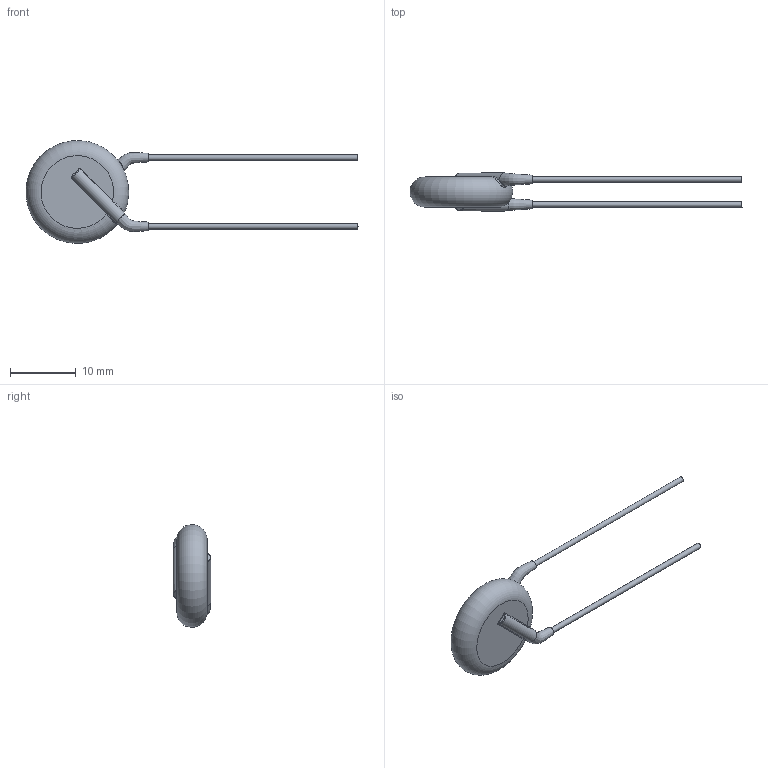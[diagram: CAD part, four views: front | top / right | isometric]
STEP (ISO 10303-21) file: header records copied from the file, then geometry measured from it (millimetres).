
FILE_DESCRIPTION(/* description */ (''),/* implementation_level */ '2;1');
FILE_NAME(/* name */ 'I:\Marketing\M6t1\3D-Models\Zchng-Werk-3\Upload for homepage\Ceramite\Y5U\440LD47-R\440LD47-R.stp',/* time_stamp */ '2016-11-10T14:46:23+01:00',/* author */ ('sheinrich'),/* organization */ (''),/* preprocessor_version */ 'ST-DEVELOPER v16.1',/* originating_system */ 'Autodesk Inventor 2016',/* authorisation */ '');
FILE_SCHEMA (('AUTOMOTIVE_DESIGN { 1 0 10303 214 3 1 1 }'));
Length unit declared in the file: millimetre
Products named in the file (1): 440LD47-R
Bounding box: 50.68 x 5.8 x 15.67 mm (x, y, z)
Volume: 859.7 mm3; surface area: 739.8 mm2
Topology: 1 solids, 1 shells, 39 faces, 84 edges, 45 vertices
Faces by surface type: bspline 12, cylinder 12, plane 8, torus 7
Full cylindrical faces by diameter (mm): 0.81 x2
Entity records: 1850 total; most frequent: CARTESIAN_POINT 1033, ORIENTED_EDGE 152, DIRECTION 144, EDGE_CURVE 76, AXIS2_PLACEMENT_3D 66, EDGE_LOOP 44, VERTEX_POINT 44, STYLED_ITEM 40
